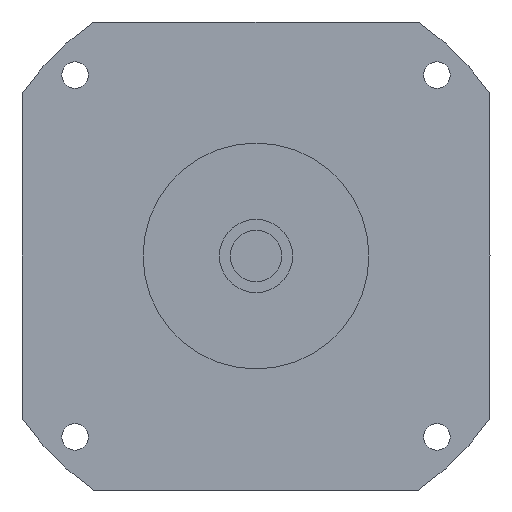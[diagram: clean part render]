
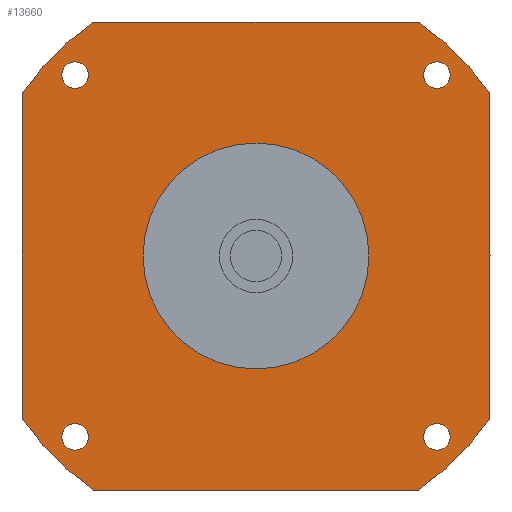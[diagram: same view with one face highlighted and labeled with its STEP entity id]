
A CAD part, left-side view. The second image highlights one B-rep face of the part: STEP entity #13660.
In plain terms, the highlighted planar face has unit normal (-1, 0, 0) as drawn and (0, 0, -1) by its records, which use the part's own axes.
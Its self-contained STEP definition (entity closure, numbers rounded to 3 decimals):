
#11990=CARTESIAN_POINT('',(-41.199,44.449,-47.4));
#12000=VERTEX_POINT('',#11990);
#12030=CARTESIAN_POINT('',(-44.449,44.449,-47.4));
#12040=DIRECTION('',(0.,0.,-1.));
#12050=DIRECTION('',(-1.,0.,0.));
#12060=AXIS2_PLACEMENT_3D('',#12030,#12040,#12050);
#12070=CIRCLE('',#12060,3.25);
#12080=CARTESIAN_POINT('',(-47.699,44.449,-47.4));
#12090=VERTEX_POINT('',#12080);
#12100=EDGE_CURVE('',#12090,#12000,#12070,.T.);
#12220=CARTESIAN_POINT('',(57.5,57.5,-47.4));
#12230=DIRECTION('',(0.,0.,-1.));
#12240=DIRECTION('',(1.,0.,0.));
#12250=AXIS2_PLACEMENT_3D('',#12220,#12230,#12240);
#12260=PLANE('',#12250);
#12270=CARTESIAN_POINT('',(-44.449,-44.449,-47.4));
#12280=DIRECTION('',(0.,0.,-1.));
#12290=DIRECTION('',(0.,-1.,0.));
#12300=AXIS2_PLACEMENT_3D('',#12270,#12280,#12290);
#12310=CIRCLE('',#12300,3.25);
#12320=CARTESIAN_POINT('',(-44.449,-47.699,-47.4));
#12330=VERTEX_POINT('',#12320);
#12340=CARTESIAN_POINT('',(-44.449,-41.199,-47.4));
#12350=VERTEX_POINT('',#12340);
#12360=EDGE_CURVE('',#12330,#12350,#12310,.T.);
#12370=ORIENTED_EDGE('',*,*,#12360,.F.);
#12380=EDGE_CURVE('',#12350,#12330,#12310,.T.);
#12390=ORIENTED_EDGE('',*,*,#12380,.F.);
#12400=EDGE_LOOP('',(#12390,#12370));
#12410=FACE_BOUND('',#12400,.T.);
#12420=ORIENTED_EDGE('',*,*,#12100,.F.);
#12430=EDGE_CURVE('',#12000,#12090,#12070,.T.);
#12440=ORIENTED_EDGE('',*,*,#12430,.F.);
#12450=EDGE_LOOP('',(#12440,#12420));
#12460=FACE_BOUND('',#12450,.T.);
#12470=CARTESIAN_POINT('',(44.449,44.449,-47.4));
#12480=DIRECTION('',(0.,0.,-1.));
#12490=DIRECTION('',(0.,1.,0.));
#12500=AXIS2_PLACEMENT_3D('',#12470,#12480,#12490);
#12510=CIRCLE('',#12500,3.25);
#12520=CARTESIAN_POINT('',(44.449,47.699,-47.4));
#12530=VERTEX_POINT('',#12520);
#12540=CARTESIAN_POINT('',(44.449,41.199,-47.4));
#12550=VERTEX_POINT('',#12540);
#12560=EDGE_CURVE('',#12530,#12550,#12510,.T.);
#12570=ORIENTED_EDGE('',*,*,#12560,.F.);
#12580=EDGE_CURVE('',#12550,#12530,#12510,.T.);
#12590=ORIENTED_EDGE('',*,*,#12580,.F.);
#12600=EDGE_LOOP('',(#12590,#12570));
#12610=FACE_BOUND('',#12600,.T.);
#12620=CARTESIAN_POINT('',(0.,0.,
-47.4));
#12630=DIRECTION('',(0.,0.,1.));
#12640=DIRECTION('',(0.,1.,0.));
#12650=AXIS2_PLACEMENT_3D('',#12620,#12630,#12640);
#12660=CIRCLE('',#12650,27.76);
#12670=CARTESIAN_POINT('',(-27.76,0.,-47.4));
#12680=VERTEX_POINT('',#12670);
#12690=CARTESIAN_POINT('',(27.76,0.,-47.4));
#12700=VERTEX_POINT('',#12690);
#12710=EDGE_CURVE('',#12680,#12700,#12660,.T.);
#12720=ORIENTED_EDGE('',*,*,#12710,.T.);
#12730=CARTESIAN_POINT('',(0.,27.76,-47.4));
#12740=VERTEX_POINT('',#12730);
#12750=EDGE_CURVE('',#12740,#12680,#12660,.T.);
#12760=ORIENTED_EDGE('',*,*,#12750,.T.);
#12770=EDGE_CURVE('',#12700,#12740,#12660,.T.);
#12780=ORIENTED_EDGE('',*,*,#12770,.T.);
#12790=EDGE_LOOP('',(#12780,#12760,#12720));
#12800=FACE_BOUND('',#12790,.T.);
#12810=CARTESIAN_POINT('',(-57.5,57.5,-47.4));
#12820=DIRECTION('',(1.,0.,0.));
#12830=VECTOR('',#12820,1000.);
#12840=LINE('',#12810,#12830);
#12850=CARTESIAN_POINT('',(-39.922,57.5,-47.4));
#12860=VERTEX_POINT('',#12850);
#12870=CARTESIAN_POINT('',(39.922,57.5,-47.4));
#12880=VERTEX_POINT('',#12870);
#12890=EDGE_CURVE('',#12860,#12880,#12840,.T.);
#12900=ORIENTED_EDGE('',*,*,#12890,.T.);
#12910=CARTESIAN_POINT('',(0.,0.,
-47.4));
#12920=DIRECTION('',(0.,0.,-1.));
#12930=DIRECTION('',(1.,0.,0.));
#12940=AXIS2_PLACEMENT_3D('',#12910,#12920,#12930);
#12950=CIRCLE('',#12940,70.);
#12960=CARTESIAN_POINT('',(-57.5,39.922,-47.4));
#12970=VERTEX_POINT('',#12960);
#12980=EDGE_CURVE('',#12970,#12860,#12950,.T.);
#12990=ORIENTED_EDGE('',*,*,#12980,.T.);
#13000=CARTESIAN_POINT('',(-57.5,-57.5,-47.4));
#13010=DIRECTION('',(0.,1.,0.));
#13020=VECTOR('',#13010,1000.);
#13030=LINE('',#13000,#13020);
#13040=CARTESIAN_POINT('',(-57.5,-39.922,-47.4));
#13050=VERTEX_POINT('',#13040);
#13060=EDGE_CURVE('',#13050,#12970,#13030,.T.);
#13070=ORIENTED_EDGE('',*,*,#13060,.T.);
#13080=CARTESIAN_POINT('',(0.,0.,
-47.4));
#13090=DIRECTION('',(0.,0.,-1.));
#13100=DIRECTION('',(1.,0.,0.));
#13110=AXIS2_PLACEMENT_3D('',#13080,#13090,#13100);
#13120=CIRCLE('',#13110,70.);
#13130=CARTESIAN_POINT('',(-39.922,-57.5,-47.4));
#13140=VERTEX_POINT('',#13130);
#13150=EDGE_CURVE('',#13140,#13050,#13120,.T.);
#13160=ORIENTED_EDGE('',*,*,#13150,.T.);
#13170=CARTESIAN_POINT('',(57.5,-57.5,-47.4));
#13180=DIRECTION('',(-1.,0.,0.));
#13190=VECTOR('',#13180,1000.);
#13200=LINE('',#13170,#13190);
#13210=CARTESIAN_POINT('',(39.922,-57.5,-47.4));
#13220=VERTEX_POINT('',#13210);
#13230=EDGE_CURVE('',#13220,#13140,#13200,.T.);
#13240=ORIENTED_EDGE('',*,*,#13230,.T.);
#13250=CARTESIAN_POINT('',(0.,0.,
-47.4));
#13260=DIRECTION('',(0.,0.,-1.));
#13270=DIRECTION('',(1.,0.,0.));
#13280=AXIS2_PLACEMENT_3D('',#13250,#13260,#13270);
#13290=CIRCLE('',#13280,70.);
#13300=CARTESIAN_POINT('',(57.5,-39.922,-47.4));
#13310=VERTEX_POINT('',#13300);
#13320=EDGE_CURVE('',#13310,#13220,#13290,.T.);
#13330=ORIENTED_EDGE('',*,*,#13320,.T.);
#13340=CARTESIAN_POINT('',(57.5,57.5,-47.4));
#13350=DIRECTION('',(0.,-1.,0.));
#13360=VECTOR('',#13350,1000.);
#13370=LINE('',#13340,#13360);
#13380=CARTESIAN_POINT('',(57.5,39.922,-47.4));
#13390=VERTEX_POINT('',#13380);
#13400=EDGE_CURVE('',#13390,#13310,#13370,.T.);
#13410=ORIENTED_EDGE('',*,*,#13400,.T.);
#13420=CARTESIAN_POINT('',(0.,0.,
-47.4));
#13430=DIRECTION('',(0.,0.,-1.));
#13440=DIRECTION('',(1.,0.,0.));
#13450=AXIS2_PLACEMENT_3D('',#13420,#13430,#13440);
#13460=CIRCLE('',#13450,70.);
#13470=EDGE_CURVE('',#12880,#13390,#13460,.T.);
#13480=ORIENTED_EDGE('',*,*,#13470,.T.);
#13490=EDGE_LOOP('',(#13480,#13410,#13330,#13240,#13160,#13070,#12990,
#12900));
#13500=FACE_OUTER_BOUND('',#13490,.T.);
#13510=CARTESIAN_POINT('',(44.449,-44.449,-47.4));
#13520=DIRECTION('',(0.,0.,-1.));
#13530=DIRECTION('',(1.,0.,0.));
#13540=AXIS2_PLACEMENT_3D('',#13510,#13520,#13530);
#13550=CIRCLE('',#13540,3.25);
#13560=CARTESIAN_POINT('',(47.699,-44.449,-47.4));
#13570=VERTEX_POINT('',#13560);
#13580=CARTESIAN_POINT('',(41.199,-44.449,-47.4));
#13590=VERTEX_POINT('',#13580);
#13600=EDGE_CURVE('',#13570,#13590,#13550,.T.);
#13610=ORIENTED_EDGE('',*,*,#13600,.F.);
#13620=EDGE_CURVE('',#13590,#13570,#13550,.T.);
#13630=ORIENTED_EDGE('',*,*,#13620,.F.);
#13640=EDGE_LOOP('',(#13630,#13610));
#13650=FACE_BOUND('',#13640,.T.);
#13660=ADVANCED_FACE('',(#12410,#12460,#12610,#12800,#13500,#13650),
#12260,.T.);
